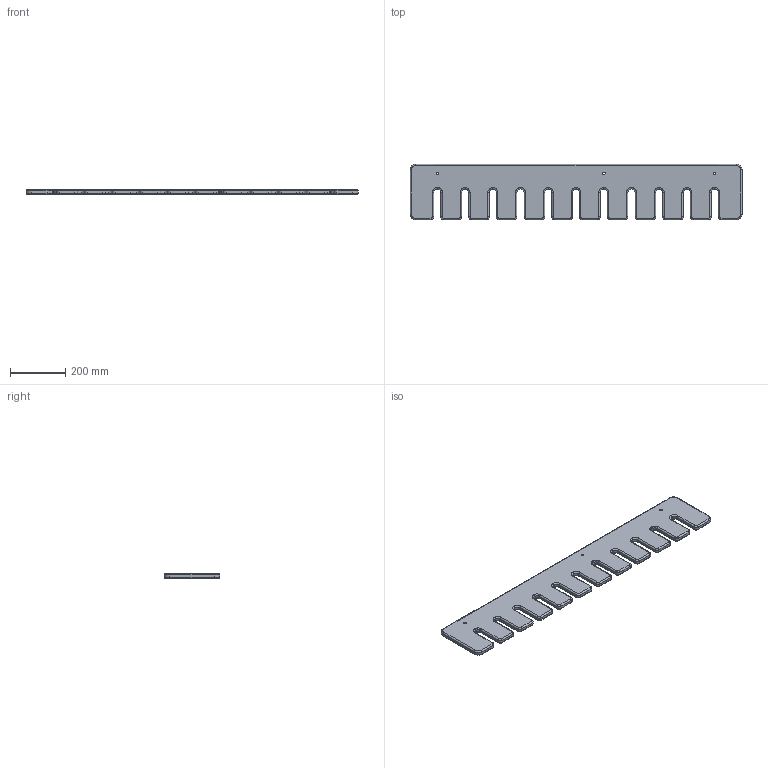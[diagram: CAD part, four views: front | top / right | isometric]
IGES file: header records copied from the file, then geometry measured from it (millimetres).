
Start section: 3D InterOp IGES (Version 23 0 1), Spatial Corp. Copyright (c) 1999-2007.
Global section: file name: Montant 1200.igs; native system: Spatial Corp.; preprocessor: 3D InterOp GENERIC/IGES 3.0; author: Noname; organization: Noname; date: 20130608.084834; units: millimetre
Bounding box: 1200 x 200 x 18 mm (x, y, z)
Surface area: 492908.5 mm2 (no closed solid volume)
Topology: 0 solids, 0 shells, 281 faces, 1375 edges, 1375 vertices
Faces by surface type: revolution 237, extrusion 44
